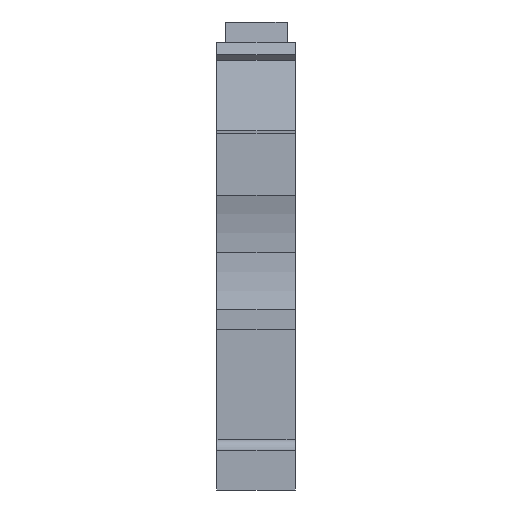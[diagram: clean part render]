
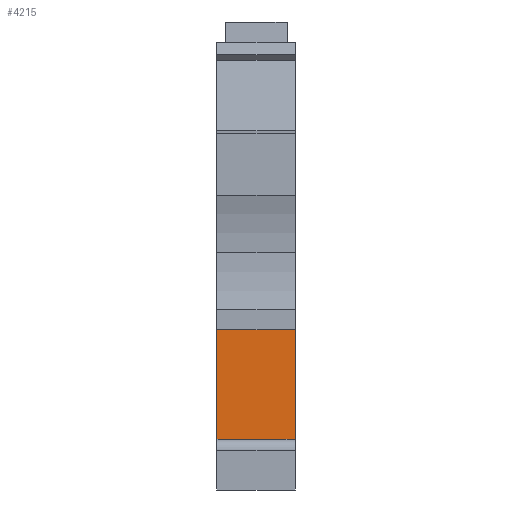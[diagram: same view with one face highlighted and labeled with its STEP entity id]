
A CAD part, front view. The second image highlights one B-rep face of the part: STEP entity #4215.
In plain terms, the highlighted planar face has unit normal (0, -1, 0).
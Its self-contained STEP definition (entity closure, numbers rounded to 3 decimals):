
#506=CARTESIAN_POINT('',(0.,3.6,4.));
#507=VERTEX_POINT('',#506);
#514=CARTESIAN_POINT('',(0.,3.6,12.6));
#515=VERTEX_POINT('',#514);
#516=CARTESIAN_POINT('',(0.,3.6,12.6));
#517=DIRECTION('',(-0.,0.,-1.));
#518=VECTOR('',#517,8.6);
#519=LINE('',#516,#518);
#520=EDGE_CURVE('',#515,#507,#519,.T.);
#1672=CARTESIAN_POINT('',(6.15,3.6,1.5));
#1673=VERTEX_POINT('',#1672);
#1680=CARTESIAN_POINT('',(1.,3.6,1.5));
#1681=VERTEX_POINT('',#1680);
#1682=CARTESIAN_POINT('',(6.15,3.6,1.5));
#1683=DIRECTION('',(-1.,0.,0.));
#1684=VECTOR('',#1683,5.15);
#1685=LINE('',#1682,#1684);
#1686=EDGE_CURVE('',#1673,#1681,#1685,.T.);
#1904=CARTESIAN_POINT('',(6.15,3.6,12.6));
#1905=VERTEX_POINT('',#1904);
#1912=CARTESIAN_POINT('',(6.15,3.6,12.6));
#1913=DIRECTION('',(-0.,-0.,-1.));
#1914=VECTOR('',#1913,11.1);
#1915=LINE('',#1912,#1914);
#1916=EDGE_CURVE('',#1905,#1673,#1915,.T.);
#3255=CARTESIAN_POINT('',(1.,3.6,4.));
#3256=VERTEX_POINT('',#3255);
#3257=CARTESIAN_POINT('',(1.,3.6,4.));
#3258=DIRECTION('',(-0.,0.,-1.));
#3259=VECTOR('',#3258,2.5);
#3260=LINE('',#3257,#3259);
#3261=EDGE_CURVE('',#3256,#1681,#3260,.T.);
#3770=CARTESIAN_POINT('',(1.,3.6,4.));
#3771=DIRECTION('',(-1.,0.,0.));
#3772=VECTOR('',#3771,1.);
#3773=LINE('',#3770,#3772);
#3774=EDGE_CURVE('',#3256,#507,#3773,.T.);
#4046=CARTESIAN_POINT('',(0.,3.6,12.6));
#4047=DIRECTION('',(1.,-0.,-0.));
#4048=VECTOR('',#4047,6.15);
#4049=LINE('',#4046,#4048);
#4050=EDGE_CURVE('',#515,#1905,#4049,.T.);
#4202=CARTESIAN_POINT('',(6.15,3.6,4.));
#4203=DIRECTION('',(0.,-1.,-0.));
#4204=DIRECTION('',(0.,-0.,1.));
#4205=AXIS2_PLACEMENT_3D('',#4202,#4203,#4204);
#4206=PLANE('',#4205);
#4207=ORIENTED_EDGE('',*,*,#1916,.F.);
#4208=ORIENTED_EDGE('',*,*,#4050,.F.);
#4209=ORIENTED_EDGE('',*,*,#520,.T.);
#4210=ORIENTED_EDGE('',*,*,#3774,.F.);
#4211=ORIENTED_EDGE('',*,*,#3261,.T.);
#4212=ORIENTED_EDGE('',*,*,#1686,.F.);
#4213=EDGE_LOOP('',(#4207,#4208,#4209,#4210,#4211,#4212));
#4214=FACE_BOUND('',#4213,.T.);
#4215=ADVANCED_FACE('',(#4214),#4206,.T.);
